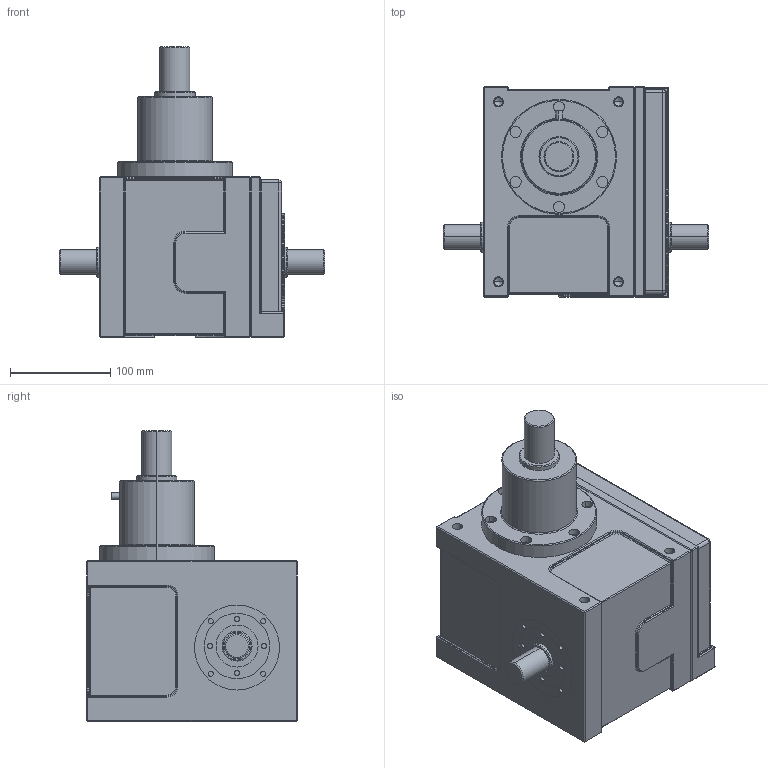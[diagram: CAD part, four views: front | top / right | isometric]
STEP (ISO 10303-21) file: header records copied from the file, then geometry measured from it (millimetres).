
FILE_DESCRIPTION((''),'2;1');
FILE_NAME('8FH','2015-01-15T',('松仔'),(''),'PRO/ENGINEER BY PARAMETRIC TECHNOLOGY CORPORATION, 2013430','PRO/ENGINEER BY PARAMETRIC TECHNOLOGY CORPORATION, 2013430','');
FILE_SCHEMA(('CONFIG_CONTROL_DESIGN'));
Length unit declared in the file: millimetre
Products named in the file (1): 8FH
Bounding box: 265.2 x 210 x 290 mm (x, y, z)
Volume: 6440632.7 mm3; surface area: 255422.7 mm2
Topology: 1 solids, 7 shells, 537 faces, 1210 edges, 751 vertices
Faces by surface type: cylinder 234, plane 202, torus 68, cone 18, sphere 14, bspline 1
Entity records: 15139 total; most frequent: DIRECTION 2796, CARTESIAN_POINT 2752, ORIENTED_EDGE 2372, EDGE_CURVE 1198, AXIS2_PLACEMENT_3D 1104, VERTEX_POINT 751, EDGE_LOOP 625, VECTOR 588
